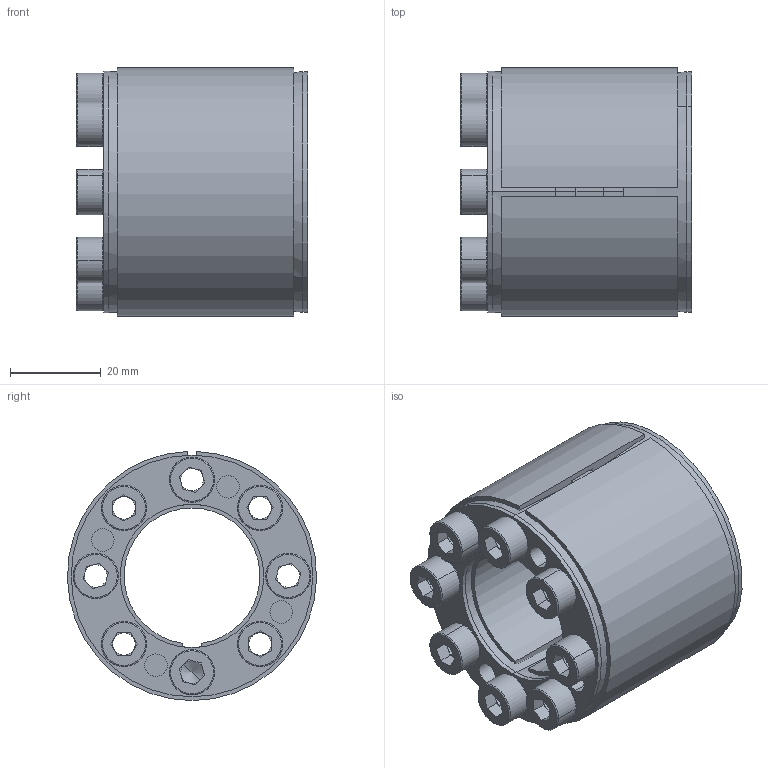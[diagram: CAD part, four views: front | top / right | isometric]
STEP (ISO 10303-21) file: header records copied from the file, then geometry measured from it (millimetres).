
FILE_DESCRIPTION (( 'STEP AP203' ), '1' );
FILE_NAME ('D4-30-55.STEP', '2017-10-14T07:45:33', ( 'MYCOM' ), ( '' ), 'SwSTEP 2.0', 'SolidWorks 2015', '' );
FILE_SCHEMA (( 'CONFIG_CONTROL_DESIGN' ));
Length unit declared in the file: millimetre
Products named in the file (1): D4-30-55
Bounding box: 51 x 54.99 x 54.98 mm (x, y, z)
Surface area: 32450.2 mm2 (no closed solid volume)
Topology: 0 solids, 13 shells, 227 faces, 617 edges, 397 vertices
Faces by surface type: plane 114, cylinder 69, torus 32, cone 12
Entity records: 7294 total; most frequent: DIRECTION 1368, CARTESIAN_POINT 1294, ORIENTED_EDGE 1073, EDGE_CURVE 615, AXIS2_PLACEMENT_3D 533, VERTEX_POINT 397, CIRCLE 305, VECTOR 302
